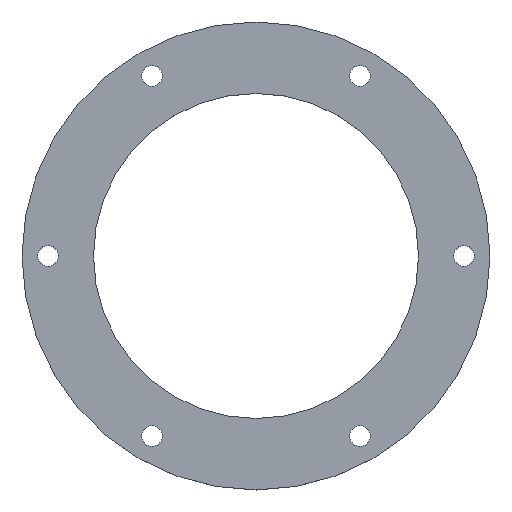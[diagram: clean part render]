
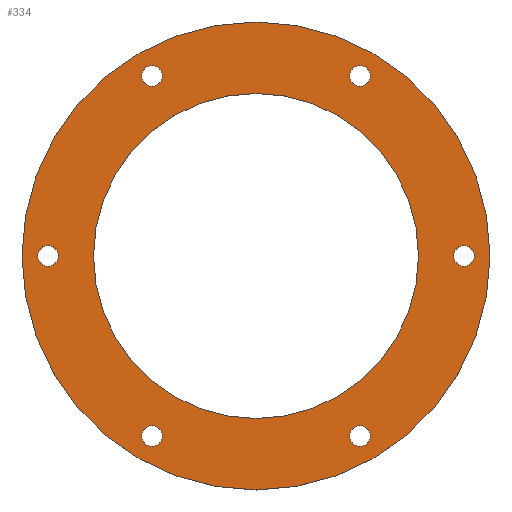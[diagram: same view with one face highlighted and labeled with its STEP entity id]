
A CAD part, top view. The second image highlights one B-rep face of the part: STEP entity #334.
In plain terms, the highlighted planar face has unit normal (0, 0, 1).
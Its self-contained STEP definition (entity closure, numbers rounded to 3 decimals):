
#24 = VERTEX_POINT('',#25);
#25 = CARTESIAN_POINT('',(-36.,0.,16.));
#32 = CYLINDRICAL_SURFACE('',#33,36.);
#33 = AXIS2_PLACEMENT_3D('',#34,#35,#36);
#34 = CARTESIAN_POINT('',(0.,0.,12.));
#35 = DIRECTION('',(0.,-0.,-1.));
#36 = DIRECTION('',(-1.,-0.,-0.));
#51 = EDGE_CURVE('',#24,#24,#52,.T.);
#52 = SURFACE_CURVE('',#53,(#58,#65),.PCURVE_S1.);
#53 = CIRCLE('',#54,36.);
#54 = AXIS2_PLACEMENT_3D('',#55,#56,#57);
#55 = CARTESIAN_POINT('',(0.,0.,16.));
#56 = DIRECTION('',(0.,0.,-1.));
#57 = DIRECTION('',(-1.,-0.,-0.));
#58 = PCURVE('',#32,#59);
#59 = DEFINITIONAL_REPRESENTATION('',(#60),#64);
#60 = LINE('',#61,#62);
#61 = CARTESIAN_POINT('',(0.,-4.));
#62 = VECTOR('',#63,1.);
#63 = DIRECTION('',(1.,0.));
#64 = ( GEOMETRIC_REPRESENTATION_CONTEXT(2) 
PARAMETRIC_REPRESENTATION_CONTEXT() REPRESENTATION_CONTEXT('2D SPACE',''
  ) );
#65 = PCURVE('',#66,#71);
#66 = PLANE('',#67);
#67 = AXIS2_PLACEMENT_3D('',#68,#69,#70);
#68 = CARTESIAN_POINT('',(0.,0.,16.));
#69 = DIRECTION('',(-0.,-0.,1.));
#70 = DIRECTION('',(1.,0.,0.));
#71 = DEFINITIONAL_REPRESENTATION('',(#72),#80);
#72 = ( BOUNDED_CURVE() B_SPLINE_CURVE(2,(#73,#74,#75,#76,#77,#78,#79),
.UNSPECIFIED.,.T.,.F.) B_SPLINE_CURVE_WITH_KNOTS((1,2,2,2,2,1),(
    -2.094,0.,2.094,4.189,6.283,
8.378),.UNSPECIFIED.) CURVE() GEOMETRIC_REPRESENTATION_ITEM() 
RATIONAL_B_SPLINE_CURVE((1.,0.5,1.,0.5,1.,0.5,1.)) REPRESENTATION_ITEM(
  '') );
#73 = CARTESIAN_POINT('',(-36.,0.));
#74 = CARTESIAN_POINT('',(-36.,62.354));
#75 = CARTESIAN_POINT('',(18.,31.177));
#76 = CARTESIAN_POINT('',(72.,0.));
#77 = CARTESIAN_POINT('',(18.,-31.177));
#78 = CARTESIAN_POINT('',(-36.,-62.354));
#79 = CARTESIAN_POINT('',(-36.,0.));
#80 = ( GEOMETRIC_REPRESENTATION_CONTEXT(2) 
PARAMETRIC_REPRESENTATION_CONTEXT() REPRESENTATION_CONTEXT('2D SPACE',''
  ) );
#137 = CYLINDRICAL_SURFACE('',#138,1.6);
#138 = AXIS2_PLACEMENT_3D('',#139,#140,#141);
#139 = CARTESIAN_POINT('',(16.,-27.713,11.));
#140 = DIRECTION('',(0.,-0.,-1.));
#141 = DIRECTION('',(-1.,-0.,-0.));
#168 = CYLINDRICAL_SURFACE('',#169,1.6);
#169 = AXIS2_PLACEMENT_3D('',#170,#171,#172);
#170 = CARTESIAN_POINT('',(-16.,-27.713,11.));
#171 = DIRECTION('',(0.,-0.,-1.));
#172 = DIRECTION('',(-1.,-0.,-0.));
#199 = CYLINDRICAL_SURFACE('',#200,1.6);
#200 = AXIS2_PLACEMENT_3D('',#201,#202,#203);
#201 = CARTESIAN_POINT('',(32.,0.,11.));
#202 = DIRECTION('',(0.,-0.,-1.));
#203 = DIRECTION('',(-1.,-0.,-0.));
#230 = CYLINDRICAL_SURFACE('',#231,1.6);
#231 = AXIS2_PLACEMENT_3D('',#232,#233,#234);
#232 = CARTESIAN_POINT('',(16.,27.713,11.));
#233 = DIRECTION('',(0.,-0.,-1.));
#234 = DIRECTION('',(-1.,-0.,-0.));
#261 = CYLINDRICAL_SURFACE('',#262,25.);
#262 = AXIS2_PLACEMENT_3D('',#263,#264,#265);
#263 = CARTESIAN_POINT('',(0.,0.,11.));
#264 = DIRECTION('',(0.,-0.,-1.));
#265 = DIRECTION('',(-1.,-0.,-0.));
#292 = CYLINDRICAL_SURFACE('',#293,1.6);
#293 = AXIS2_PLACEMENT_3D('',#294,#295,#296);
#294 = CARTESIAN_POINT('',(-32.,0.,11.));
#295 = DIRECTION('',(0.,-0.,-1.));
#296 = DIRECTION('',(-1.,-0.,-0.));
#323 = CYLINDRICAL_SURFACE('',#324,1.6);
#324 = AXIS2_PLACEMENT_3D('',#325,#326,#327);
#325 = CARTESIAN_POINT('',(-16.,27.713,11.));
#326 = DIRECTION('',(0.,-0.,-1.));
#327 = DIRECTION('',(-1.,-0.,-0.));
#334 = ADVANCED_FACE('',(#335,#338,#364,#390,#416,#442,#468,#494),#66,
  .T.);
#335 = FACE_BOUND('',#336,.F.);
#336 = EDGE_LOOP('',(#337));
#337 = ORIENTED_EDGE('',*,*,#51,.T.);
#338 = FACE_BOUND('',#339,.F.);
#339 = EDGE_LOOP('',(#340));
#340 = ORIENTED_EDGE('',*,*,#341,.T.);
#341 = EDGE_CURVE('',#342,#342,#344,.T.);
#342 = VERTEX_POINT('',#343);
#343 = CARTESIAN_POINT('',(14.4,-27.713,16.));
#344 = SURFACE_CURVE('',#345,(#350,#357),.PCURVE_S1.);
#345 = CIRCLE('',#346,1.6);
#346 = AXIS2_PLACEMENT_3D('',#347,#348,#349);
#347 = CARTESIAN_POINT('',(16.,-27.713,16.));
#348 = DIRECTION('',(0.,0.,1.));
#349 = DIRECTION('',(-1.,-0.,-0.));
#350 = PCURVE('',#66,#351);
#351 = DEFINITIONAL_REPRESENTATION('',(#352),#356);
#352 = CIRCLE('',#353,1.6);
#353 = AXIS2_PLACEMENT_2D('',#354,#355);
#354 = CARTESIAN_POINT('',(16.,-27.713));
#355 = DIRECTION('',(-1.,0.));
#356 = ( GEOMETRIC_REPRESENTATION_CONTEXT(2) 
PARAMETRIC_REPRESENTATION_CONTEXT() REPRESENTATION_CONTEXT('2D SPACE',''
  ) );
#357 = PCURVE('',#137,#358);
#358 = DEFINITIONAL_REPRESENTATION('',(#359),#363);
#359 = LINE('',#360,#361);
#360 = CARTESIAN_POINT('',(6.283,-5.));
#361 = VECTOR('',#362,1.);
#362 = DIRECTION('',(-1.,0.));
#363 = ( GEOMETRIC_REPRESENTATION_CONTEXT(2) 
PARAMETRIC_REPRESENTATION_CONTEXT() REPRESENTATION_CONTEXT('2D SPACE',''
  ) );
#364 = FACE_BOUND('',#365,.F.);
#365 = EDGE_LOOP('',(#366));
#366 = ORIENTED_EDGE('',*,*,#367,.T.);
#367 = EDGE_CURVE('',#368,#368,#370,.T.);
#368 = VERTEX_POINT('',#369);
#369 = CARTESIAN_POINT('',(-17.6,-27.713,16.));
#370 = SURFACE_CURVE('',#371,(#376,#383),.PCURVE_S1.);
#371 = CIRCLE('',#372,1.6);
#372 = AXIS2_PLACEMENT_3D('',#373,#374,#375);
#373 = CARTESIAN_POINT('',(-16.,-27.713,16.));
#374 = DIRECTION('',(0.,0.,1.));
#375 = DIRECTION('',(-1.,-0.,-0.));
#376 = PCURVE('',#66,#377);
#377 = DEFINITIONAL_REPRESENTATION('',(#378),#382);
#378 = CIRCLE('',#379,1.6);
#379 = AXIS2_PLACEMENT_2D('',#380,#381);
#380 = CARTESIAN_POINT('',(-16.,-27.713));
#381 = DIRECTION('',(-1.,0.));
#382 = ( GEOMETRIC_REPRESENTATION_CONTEXT(2) 
PARAMETRIC_REPRESENTATION_CONTEXT() REPRESENTATION_CONTEXT('2D SPACE',''
  ) );
#383 = PCURVE('',#168,#384);
#384 = DEFINITIONAL_REPRESENTATION('',(#385),#389);
#385 = LINE('',#386,#387);
#386 = CARTESIAN_POINT('',(6.283,-5.));
#387 = VECTOR('',#388,1.);
#388 = DIRECTION('',(-1.,0.));
#389 = ( GEOMETRIC_REPRESENTATION_CONTEXT(2) 
PARAMETRIC_REPRESENTATION_CONTEXT() REPRESENTATION_CONTEXT('2D SPACE',''
  ) );
#390 = FACE_BOUND('',#391,.F.);
#391 = EDGE_LOOP('',(#392));
#392 = ORIENTED_EDGE('',*,*,#393,.T.);
#393 = EDGE_CURVE('',#394,#394,#396,.T.);
#394 = VERTEX_POINT('',#395);
#395 = CARTESIAN_POINT('',(30.4,0.,16.));
#396 = SURFACE_CURVE('',#397,(#402,#409),.PCURVE_S1.);
#397 = CIRCLE('',#398,1.6);
#398 = AXIS2_PLACEMENT_3D('',#399,#400,#401);
#399 = CARTESIAN_POINT('',(32.,0.,16.));
#400 = DIRECTION('',(0.,0.,1.));
#401 = DIRECTION('',(-1.,-0.,-0.));
#402 = PCURVE('',#66,#403);
#403 = DEFINITIONAL_REPRESENTATION('',(#404),#408);
#404 = CIRCLE('',#405,1.6);
#405 = AXIS2_PLACEMENT_2D('',#406,#407);
#406 = CARTESIAN_POINT('',(32.,0.));
#407 = DIRECTION('',(-1.,0.));
#408 = ( GEOMETRIC_REPRESENTATION_CONTEXT(2) 
PARAMETRIC_REPRESENTATION_CONTEXT() REPRESENTATION_CONTEXT('2D SPACE',''
  ) );
#409 = PCURVE('',#199,#410);
#410 = DEFINITIONAL_REPRESENTATION('',(#411),#415);
#411 = LINE('',#412,#413);
#412 = CARTESIAN_POINT('',(6.283,-5.));
#413 = VECTOR('',#414,1.);
#414 = DIRECTION('',(-1.,0.));
#415 = ( GEOMETRIC_REPRESENTATION_CONTEXT(2) 
PARAMETRIC_REPRESENTATION_CONTEXT() REPRESENTATION_CONTEXT('2D SPACE',''
  ) );
#416 = FACE_BOUND('',#417,.F.);
#417 = EDGE_LOOP('',(#418));
#418 = ORIENTED_EDGE('',*,*,#419,.T.);
#419 = EDGE_CURVE('',#420,#420,#422,.T.);
#420 = VERTEX_POINT('',#421);
#421 = CARTESIAN_POINT('',(14.4,27.713,16.));
#422 = SURFACE_CURVE('',#423,(#428,#435),.PCURVE_S1.);
#423 = CIRCLE('',#424,1.6);
#424 = AXIS2_PLACEMENT_3D('',#425,#426,#427);
#425 = CARTESIAN_POINT('',(16.,27.713,16.));
#426 = DIRECTION('',(0.,0.,1.));
#427 = DIRECTION('',(-1.,-0.,-0.));
#428 = PCURVE('',#66,#429);
#429 = DEFINITIONAL_REPRESENTATION('',(#430),#434);
#430 = CIRCLE('',#431,1.6);
#431 = AXIS2_PLACEMENT_2D('',#432,#433);
#432 = CARTESIAN_POINT('',(16.,27.713));
#433 = DIRECTION('',(-1.,0.));
#434 = ( GEOMETRIC_REPRESENTATION_CONTEXT(2) 
PARAMETRIC_REPRESENTATION_CONTEXT() REPRESENTATION_CONTEXT('2D SPACE',''
  ) );
#435 = PCURVE('',#230,#436);
#436 = DEFINITIONAL_REPRESENTATION('',(#437),#441);
#437 = LINE('',#438,#439);
#438 = CARTESIAN_POINT('',(6.283,-5.));
#439 = VECTOR('',#440,1.);
#440 = DIRECTION('',(-1.,0.));
#441 = ( GEOMETRIC_REPRESENTATION_CONTEXT(2) 
PARAMETRIC_REPRESENTATION_CONTEXT() REPRESENTATION_CONTEXT('2D SPACE',''
  ) );
#442 = FACE_BOUND('',#443,.F.);
#443 = EDGE_LOOP('',(#444));
#444 = ORIENTED_EDGE('',*,*,#445,.T.);
#445 = EDGE_CURVE('',#446,#446,#448,.T.);
#446 = VERTEX_POINT('',#447);
#447 = CARTESIAN_POINT('',(-25.,0.,16.));
#448 = SURFACE_CURVE('',#449,(#454,#461),.PCURVE_S1.);
#449 = CIRCLE('',#450,25.);
#450 = AXIS2_PLACEMENT_3D('',#451,#452,#453);
#451 = CARTESIAN_POINT('',(0.,0.,16.));
#452 = DIRECTION('',(0.,0.,1.));
#453 = DIRECTION('',(-1.,-0.,-0.));
#454 = PCURVE('',#66,#455);
#455 = DEFINITIONAL_REPRESENTATION('',(#456),#460);
#456 = CIRCLE('',#457,25.);
#457 = AXIS2_PLACEMENT_2D('',#458,#459);
#458 = CARTESIAN_POINT('',(0.,0.));
#459 = DIRECTION('',(-1.,0.));
#460 = ( GEOMETRIC_REPRESENTATION_CONTEXT(2) 
PARAMETRIC_REPRESENTATION_CONTEXT() REPRESENTATION_CONTEXT('2D SPACE',''
  ) );
#461 = PCURVE('',#261,#462);
#462 = DEFINITIONAL_REPRESENTATION('',(#463),#467);
#463 = LINE('',#464,#465);
#464 = CARTESIAN_POINT('',(6.283,-5.));
#465 = VECTOR('',#466,1.);
#466 = DIRECTION('',(-1.,0.));
#467 = ( GEOMETRIC_REPRESENTATION_CONTEXT(2) 
PARAMETRIC_REPRESENTATION_CONTEXT() REPRESENTATION_CONTEXT('2D SPACE',''
  ) );
#468 = FACE_BOUND('',#469,.F.);
#469 = EDGE_LOOP('',(#470));
#470 = ORIENTED_EDGE('',*,*,#471,.T.);
#471 = EDGE_CURVE('',#472,#472,#474,.T.);
#472 = VERTEX_POINT('',#473);
#473 = CARTESIAN_POINT('',(-33.6,0.,16.));
#474 = SURFACE_CURVE('',#475,(#480,#487),.PCURVE_S1.);
#475 = CIRCLE('',#476,1.6);
#476 = AXIS2_PLACEMENT_3D('',#477,#478,#479);
#477 = CARTESIAN_POINT('',(-32.,0.,16.));
#478 = DIRECTION('',(0.,0.,1.));
#479 = DIRECTION('',(-1.,-0.,-0.));
#480 = PCURVE('',#66,#481);
#481 = DEFINITIONAL_REPRESENTATION('',(#482),#486);
#482 = CIRCLE('',#483,1.6);
#483 = AXIS2_PLACEMENT_2D('',#484,#485);
#484 = CARTESIAN_POINT('',(-32.,0.));
#485 = DIRECTION('',(-1.,0.));
#486 = ( GEOMETRIC_REPRESENTATION_CONTEXT(2) 
PARAMETRIC_REPRESENTATION_CONTEXT() REPRESENTATION_CONTEXT('2D SPACE',''
  ) );
#487 = PCURVE('',#292,#488);
#488 = DEFINITIONAL_REPRESENTATION('',(#489),#493);
#489 = LINE('',#490,#491);
#490 = CARTESIAN_POINT('',(6.283,-5.));
#491 = VECTOR('',#492,1.);
#492 = DIRECTION('',(-1.,0.));
#493 = ( GEOMETRIC_REPRESENTATION_CONTEXT(2) 
PARAMETRIC_REPRESENTATION_CONTEXT() REPRESENTATION_CONTEXT('2D SPACE',''
  ) );
#494 = FACE_BOUND('',#495,.F.);
#495 = EDGE_LOOP('',(#496));
#496 = ORIENTED_EDGE('',*,*,#497,.T.);
#497 = EDGE_CURVE('',#498,#498,#500,.T.);
#498 = VERTEX_POINT('',#499);
#499 = CARTESIAN_POINT('',(-17.6,27.713,16.));
#500 = SURFACE_CURVE('',#501,(#506,#513),.PCURVE_S1.);
#501 = CIRCLE('',#502,1.6);
#502 = AXIS2_PLACEMENT_3D('',#503,#504,#505);
#503 = CARTESIAN_POINT('',(-16.,27.713,16.));
#504 = DIRECTION('',(0.,0.,1.));
#505 = DIRECTION('',(-1.,-0.,-0.));
#506 = PCURVE('',#66,#507);
#507 = DEFINITIONAL_REPRESENTATION('',(#508),#512);
#508 = CIRCLE('',#509,1.6);
#509 = AXIS2_PLACEMENT_2D('',#510,#511);
#510 = CARTESIAN_POINT('',(-16.,27.713));
#511 = DIRECTION('',(-1.,0.));
#512 = ( GEOMETRIC_REPRESENTATION_CONTEXT(2) 
PARAMETRIC_REPRESENTATION_CONTEXT() REPRESENTATION_CONTEXT('2D SPACE',''
  ) );
#513 = PCURVE('',#323,#514);
#514 = DEFINITIONAL_REPRESENTATION('',(#515),#519);
#515 = LINE('',#516,#517);
#516 = CARTESIAN_POINT('',(6.283,-5.));
#517 = VECTOR('',#518,1.);
#518 = DIRECTION('',(-1.,0.));
#519 = ( GEOMETRIC_REPRESENTATION_CONTEXT(2) 
PARAMETRIC_REPRESENTATION_CONTEXT() REPRESENTATION_CONTEXT('2D SPACE',''
  ) );
